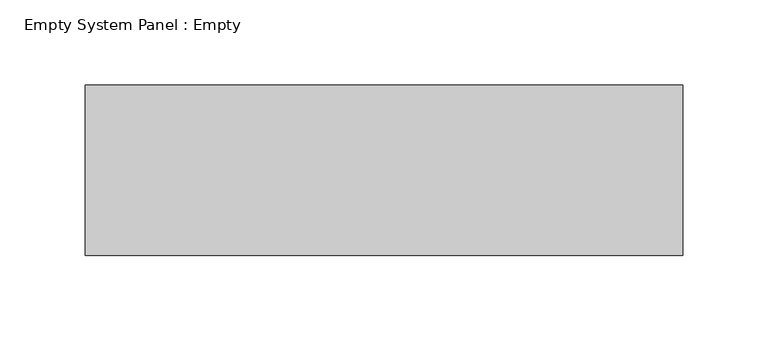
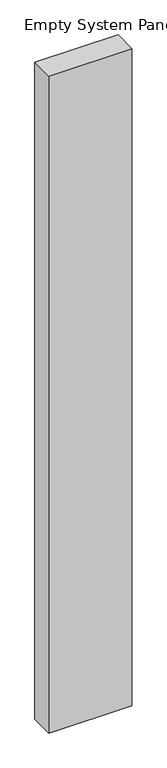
"""IFC4 building model written with IfcOpenShell, lengths in millimetres: plate geometry, Empty System Panel : Empty."""

from ifc_helpers import new_model, si_unit, origin, origin_with_axes, place, context, project, spatial, polyline, outline, extrude, source, transform, mapped, element, save


def empty_system_panel_empty_5c88f992(model_context):
    return source(origin(), model_context, "Body", "SweptSolid", [
        extrude(outline(polyline([(175.0, -50.0), (-175.0, -50.0), (-175.0, 50.0), (175.0, 50.0), (175.0, -50.0)])), origin_with_axes(), (0.0, 0.0, 1.0), 2925.0),
    ])


if __name__ == "__main__":
    model = new_model("IFC4")
    model_context = context("Model", 3, world=origin())
    ifc_project = project(units=[si_unit("LENGTHUNIT", "METRE", prefix="MILLI")], contexts=[model_context])
    site = spatial("IfcSite", under=ifc_project)
    building = spatial("IfcBuilding", under=site)
    placement = place(None, origin())
    empty_system_panel_empty_shape = empty_system_panel_empty_5c88f992(model_context)
    element("IfcPlate", 1, ObjectType="Empty System Panel : Empty", at=placement, inside=building, context=model_context, shape_type="MappedRepresentation", body=[
        mapped(empty_system_panel_empty_shape, transform((0.0, 0.0, 0.0), x_axis=(1.0, 0.0, 0.0), y_axis=(0.0, 1.0, 0.0), z_axis=(0.0, 0.0, 1.0))),
    ])
    save(model, "model.ifc")
